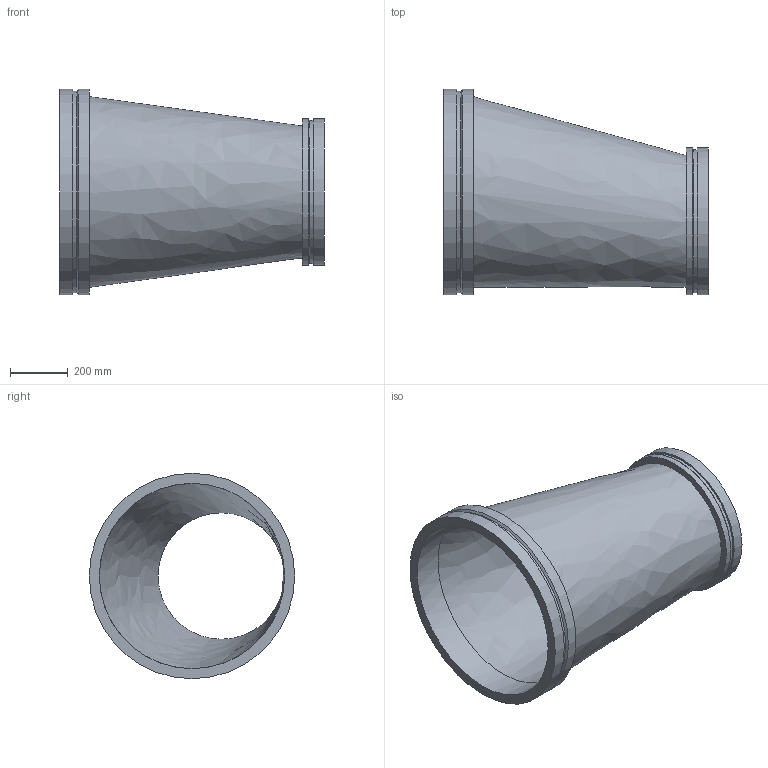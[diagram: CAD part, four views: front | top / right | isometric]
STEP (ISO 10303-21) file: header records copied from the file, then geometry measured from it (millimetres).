
FILE_DESCRIPTION(/* description */ ('VIC REDUCER ECCENTRIC No W51-VR','CAx-IF Rec.Pracs.---Representation and Presentation of Product Manufacturing Information (PMI)---4.0---2014-10-13'),/* implementation_level */ '2;1');
FILE_NAME(/* name */ 'C:\Users\kkamble\AppData\Roaming\Autodesk\ApplicationPlugins\Back Up\Victaulic_Vic-Ring_Reducer Eccentric_No W51 VR (AGR)\Victaulic_Vic-Ring_Reducer Eccentric_No W51 VR (AGR)_26.0x18.0 (650x450).stp',/* time_stamp */ '2020-09-10T11:49:29+05:00',/* author */ ('CONSTRUCTION PIPING SERVICES'),/* organization */ ('Victaulic'),/* preprocessor_version */ 'ST-DEVELOPER v17.2',/* originating_system */ 'Autodesk Inventor 2019',/* authorisation */ '');
FILE_SCHEMA (('AP242_MANAGED_MODEL_BASED_3D_ENGINEERING_MIM_LF { 1 0 10303 442 1 1 4 }'));
Length unit declared in the file: inch
Products named in the file (1): W51 VR-26.0x18.0
Bounding box: 914.4 x 711.2 x 711.2 mm (x, y, z)
Volume: 23195602.6 mm3; surface area: 3492349.2 mm2
Topology: 1 solids, 1 shells, 18 faces, 49 edges, 37 vertices
Faces by surface type: cylinder 8, plane 6, cone 2, bspline 2
Full cylindrical faces by diameter (mm): 438.15 x1, 495.3 x1, 508 x2, 641.35 x1, 696.722 x1, 711.2 x2
Entity records: 792 total; most frequent: CARTESIAN_POINT 158, DIRECTION 144, ORIENTED_EDGE 98, AXIS2_PLACEMENT_3D 67, EDGE_CURVE 49, CIRCLE 37, VERTEX_POINT 37, EDGE_LOOP 24
